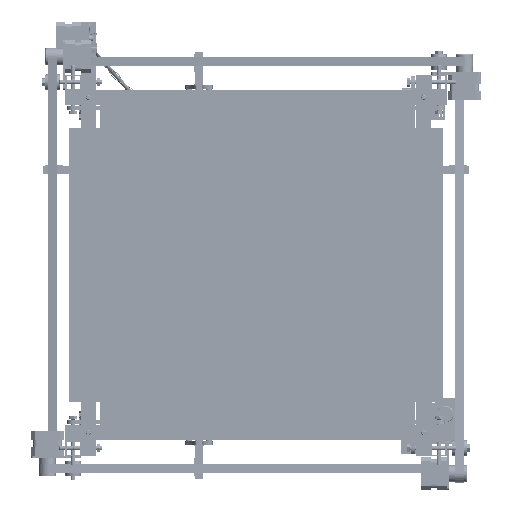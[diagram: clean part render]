
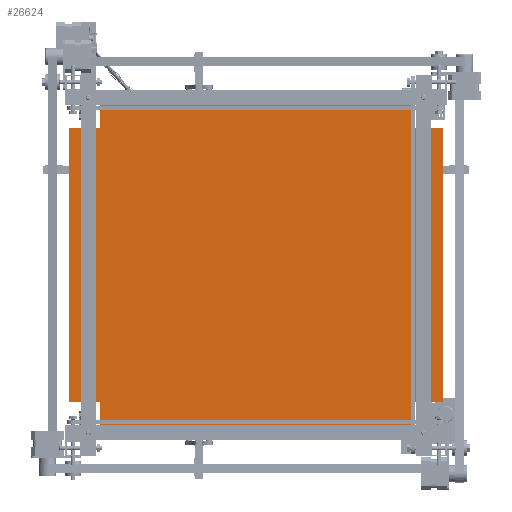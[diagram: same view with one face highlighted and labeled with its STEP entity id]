
A CAD part, front view. The second image highlights one B-rep face of the part: STEP entity #26624.
In plain terms, the highlighted planar face has unit normal (0, -1, 0) as drawn and (0, 0, -1) by its records, which use the part's own axes.
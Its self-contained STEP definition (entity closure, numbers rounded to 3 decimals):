
#203 = EDGE_CURVE ( 'NONE', #34932, #56695, #24970, .T. ) ;
#854 = VERTEX_POINT ( 'NONE', #49789 ) ;
#5750 = VECTOR ( 'NONE', #20746, 1000. ) ;
#6607 = LINE ( 'NONE', #19466, #56156 ) ;
#6954 = VERTEX_POINT ( 'NONE', #58829 ) ;
#7321 = LINE ( 'NONE', #15786, #5750 ) ;
#7715 = CARTESIAN_POINT ( 'NONE',  ( -180., 245., 9. ) ) ;
#8096 = ORIENTED_EDGE ( 'NONE', *, *, #40952, .F. ) ;
#8319 = PLANE ( 'NONE',  #28680 ) ;
#8386 = CARTESIAN_POINT ( 'NONE',  ( 210., 205., 9. ) ) ;
#10962 = VERTEX_POINT ( 'NONE', #37068 ) ;
#11618 = VECTOR ( 'NONE', #52484, 1000. ) ;
#12445 = VERTEX_POINT ( 'NONE', #16145 ) ;
#12692 = CARTESIAN_POINT ( 'NONE',  ( -210., -205., 9. ) ) ;
#13267 = ORIENTED_EDGE ( 'NONE', *, *, #62502, .F. ) ;
#14782 = EDGE_LOOP ( 'NONE', ( #8096, #30037, #59029, #37882, #13267, #36591, #36459, #62904, #21040, #28921, #54161, #26945 ) ) ;
#15786 = CARTESIAN_POINT ( 'NONE',  ( -210., 205., 9. ) ) ;
#15890 = CARTESIAN_POINT ( 'NONE',  ( 180., 245., 9. ) ) ;
#16145 = CARTESIAN_POINT ( 'NONE',  ( 180., 205., 9. ) ) ;
#19466 = CARTESIAN_POINT ( 'NONE',  ( 180., -245., 9. ) ) ;
#19677 = VECTOR ( 'NONE', #52443, 1000. ) ;
#20382 = VERTEX_POINT ( 'NONE', #44896 ) ;
#20746 = DIRECTION ( 'NONE',  ( -1., 0., 0. ) ) ;
#20947 = DIRECTION ( 'NONE',  ( 1., 0., 0. ) ) ;
#21040 = ORIENTED_EDGE ( 'NONE', *, *, #51600, .F. ) ;
#21237 = EDGE_CURVE ( 'NONE', #43387, #20382, #36370, .T. ) ;
#21299 = LINE ( 'NONE', #49309, #59206 ) ;
#21623 = VECTOR ( 'NONE', #47359, 1000. ) ;
#24461 = CARTESIAN_POINT ( 'NONE',  ( 180., -205., 9. ) ) ;
#24970 = LINE ( 'NONE', #12692, #49742 ) ;
#25736 = CARTESIAN_POINT ( 'NONE',  ( 180., -205., 9. ) ) ;
#26366 = CARTESIAN_POINT ( 'NONE',  ( 180., 245., 9. ) ) ;
#26624 = ADVANCED_FACE ( 'NONE', ( #44385 ), #8319, .F. ) ;
#26945 = ORIENTED_EDGE ( 'NONE', *, *, #53102, .F. ) ;
#28362 = CARTESIAN_POINT ( 'NONE',  ( -180., -245., 9. ) ) ;
#28680 = AXIS2_PLACEMENT_3D ( 'NONE', #33048, #57671, #43006 ) ;
#28921 = ORIENTED_EDGE ( 'NONE', *, *, #47524, .F. ) ;
#30037 = ORIENTED_EDGE ( 'NONE', *, *, #21237, .F. ) ;
#30476 = CARTESIAN_POINT ( 'NONE',  ( 180., -245., 9. ) ) ;
#32671 = DIRECTION ( 'NONE',  ( 0., 1., 0. ) ) ;
#33048 = CARTESIAN_POINT ( 'NONE',  ( -180., 205., 9. ) ) ;
#33660 = LINE ( 'NONE', #30476, #45241 ) ;
#34932 = VERTEX_POINT ( 'NONE', #36208 ) ;
#35440 = CARTESIAN_POINT ( 'NONE',  ( -210., -205., 9. ) ) ;
#35847 = DIRECTION ( 'NONE',  ( 0., -1., 0. ) ) ;
#36057 = CARTESIAN_POINT ( 'NONE',  ( -180., 205., 9. ) ) ;
#36208 = CARTESIAN_POINT ( 'NONE',  ( -210., 205., 9. ) ) ;
#36370 = LINE ( 'NONE', #7715, #21623 ) ;
#36459 = ORIENTED_EDGE ( 'NONE', *, *, #61236, .F. ) ;
#36591 = ORIENTED_EDGE ( 'NONE', *, *, #38930, .F. ) ;
#36697 = VECTOR ( 'NONE', #59056, 1000. ) ;
#37068 = CARTESIAN_POINT ( 'NONE',  ( 180., -245., 9. ) ) ;
#37882 = ORIENTED_EDGE ( 'NONE', *, *, #57074, .F. ) ;
#37990 = LINE ( 'NONE', #47505, #11618 ) ;
#38068 = VECTOR ( 'NONE', #50528, 1000. ) ;
#38930 = EDGE_CURVE ( 'NONE', #43286, #854, #49842, .T. ) ;
#39960 = VECTOR ( 'NONE', #35847, 1000. ) ;
#40578 = CARTESIAN_POINT ( 'NONE',  ( -180., 245., 9. ) ) ;
#40952 = EDGE_CURVE ( 'NONE', #20382, #41021, #41511, .T. ) ;
#41021 = VERTEX_POINT ( 'NONE', #36057 ) ;
#41511 = LINE ( 'NONE', #40578, #39960 ) ;
#42267 = VERTEX_POINT ( 'NONE', #28362 ) ;
#43006 = DIRECTION ( 'NONE',  ( 1., 0., 0. ) ) ;
#43286 = VERTEX_POINT ( 'NONE', #25736 ) ;
#43387 = VERTEX_POINT ( 'NONE', #26366 ) ;
#44385 = FACE_OUTER_BOUND ( 'NONE', #14782, .T. ) ;
#44896 = CARTESIAN_POINT ( 'NONE',  ( -180., 245., 9. ) ) ;
#45241 = VECTOR ( 'NONE', #20947, 1000. ) ;
#46040 = LINE ( 'NONE', #57377, #19677 ) ;
#46094 = EDGE_CURVE ( 'NONE', #12445, #43387, #62831, .T. ) ;
#47359 = DIRECTION ( 'NONE',  ( -1., 0., 0. ) ) ;
#47505 = CARTESIAN_POINT ( 'NONE',  ( 180., 205., 9. ) ) ;
#47524 = EDGE_CURVE ( 'NONE', #56695, #6954, #61113, .T. ) ;
#47997 = VECTOR ( 'NONE', #54455, 1000. ) ;
#48612 = DIRECTION ( 'NONE',  ( 0., -1., 0. ) ) ;
#49309 = CARTESIAN_POINT ( 'NONE',  ( -180., -245., 9. ) ) ;
#49492 = CARTESIAN_POINT ( 'NONE',  ( -210., -205., 9. ) ) ;
#49742 = VECTOR ( 'NONE', #48612, 1000. ) ;
#49789 = CARTESIAN_POINT ( 'NONE',  ( 210., -205., 9. ) ) ;
#49842 = LINE ( 'NONE', #24461, #36697 ) ;
#50528 = DIRECTION ( 'NONE',  ( 0., 1., 0. ) ) ;
#51421 = VERTEX_POINT ( 'NONE', #8386 ) ;
#51600 = EDGE_CURVE ( 'NONE', #6954, #42267, #21299, .T. ) ;
#52443 = DIRECTION ( 'NONE',  ( 0., 1., 0. ) ) ;
#52484 = DIRECTION ( 'NONE',  ( -1., 0., 0. ) ) ;
#53102 = EDGE_CURVE ( 'NONE', #41021, #34932, #7321, .T. ) ;
#53768 = EDGE_CURVE ( 'NONE', #42267, #10962, #33660, .T. ) ;
#54161 = ORIENTED_EDGE ( 'NONE', *, *, #203, .F. ) ;
#54265 = DIRECTION ( 'NONE',  ( 0., -1., 0. ) ) ;
#54455 = DIRECTION ( 'NONE',  ( 1., 0., 0. ) ) ;
#56156 = VECTOR ( 'NONE', #32671, 1000. ) ;
#56695 = VERTEX_POINT ( 'NONE', #35440 ) ;
#57074 = EDGE_CURVE ( 'NONE', #51421, #12445, #37990, .T. ) ;
#57377 = CARTESIAN_POINT ( 'NONE',  ( 210., 205., 9. ) ) ;
#57671 = DIRECTION ( 'NONE',  ( 0., 0., 1. ) ) ;
#58829 = CARTESIAN_POINT ( 'NONE',  ( -180., -205., 9. ) ) ;
#59029 = ORIENTED_EDGE ( 'NONE', *, *, #46094, .F. ) ;
#59056 = DIRECTION ( 'NONE',  ( 1., 0., 0. ) ) ;
#59206 = VECTOR ( 'NONE', #54265, 1000. ) ;
#61113 = LINE ( 'NONE', #49492, #47997 ) ;
#61236 = EDGE_CURVE ( 'NONE', #10962, #43286, #6607, .T. ) ;
#62502 = EDGE_CURVE ( 'NONE', #854, #51421, #46040, .T. ) ;
#62831 = LINE ( 'NONE', #15890, #38068 ) ;
#62904 = ORIENTED_EDGE ( 'NONE', *, *, #53768, .F. ) ;
